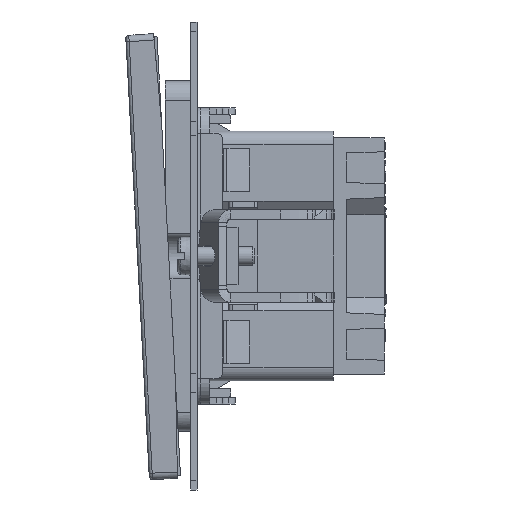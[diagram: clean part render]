
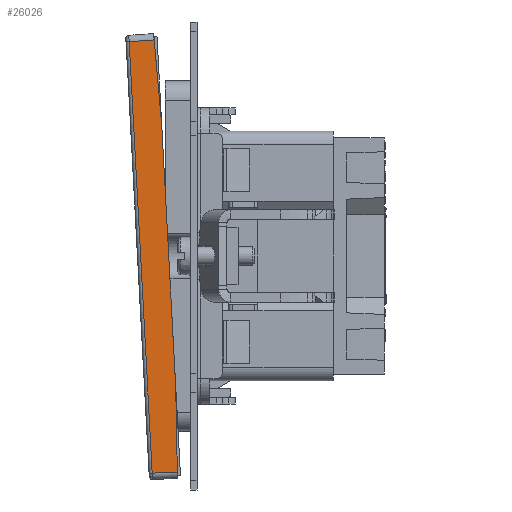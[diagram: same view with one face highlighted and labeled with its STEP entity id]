
A CAD part, left-side view. The second image highlights one B-rep face of the part: STEP entity #26026.
In plain terms, the highlighted planar face has unit normal (-1, 0.017, -0.001).
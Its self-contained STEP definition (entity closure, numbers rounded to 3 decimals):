
#290 = CARTESIAN_POINT ( 'NONE',  ( 23.088, 56.01, 48.668 ) ) ;
#636 = VERTEX_POINT ( 'NONE', #38427 ) ;
#2502 = ORIENTED_EDGE ( 'NONE', *, *, #26528, .T. ) ;
#2723 = VECTOR ( 'NONE', #38804, 1000. ) ;
#4575 = DIRECTION ( 'NONE',  ( 0., 0.053, 0.999 ) ) ;
#5030 = ORIENTED_EDGE ( 'NONE', *, *, #47167, .T. ) ;
#6022 = ORIENTED_EDGE ( 'NONE', *, *, #10515, .T. ) ;
#7202 = CARTESIAN_POINT ( 'NONE',  ( 23.088, 56.704, 61.977 ) ) ;
#8447 = CARTESIAN_POINT ( 'NONE',  ( 23.096, 53.556, -5.944 ) ) ;
#8536 = DIRECTION ( 'NONE',  ( 0.017, 0.998, -0.053 ) ) ;
#10254 = VERTEX_POINT ( 'NONE', #14268 ) ;
#10515 = EDGE_CURVE ( 'NONE', #35272, #35106, #13270, .T. ) ;
#12032 = EDGE_CURVE ( 'NONE', #35106, #56758, #28618, .T. ) ;
#12403 = ORIENTED_EDGE ( 'NONE', *, *, #41782, .T. ) ;
#13270 = LINE ( 'NONE', #13902, #17510 ) ;
#13522 = CARTESIAN_POINT ( 'NONE',  ( 23.165, 57.445, -7.076 ) ) ;
#13902 = CARTESIAN_POINT ( 'NONE',  ( 23.054, 54.832, 63.01 ) ) ;
#13978 = AXIS2_PLACEMENT_3D ( 'NONE', #27226, #28145, #8536 ) ;
#14268 = CARTESIAN_POINT ( 'NONE',  ( 23.165, 61.12, 61.664 ) ) ;
#14404 = EDGE_LOOP ( 'NONE', ( #26778, #12403, #2502, #5030, #6022, #30248 ) ) ;
#17126 = DIRECTION ( 'NONE',  ( -0.017, -0.999, 0.036 ) ) ;
#17510 = VECTOR ( 'NONE', #57898, 1000. ) ;
#24166 = DIRECTION ( 'NONE',  ( 0.001, 0.088, 0.996 ) ) ;
#26026 = ADVANCED_FACE ( 'NONE', ( #41745 ), #37010, .T. ) ;
#26305 = CARTESIAN_POINT ( 'NONE',  ( 23.109, 54.295, -5.97 ) ) ;
#26528 = EDGE_CURVE ( 'NONE', #10254, #49915, #36310, .T. ) ;
#26778 = ORIENTED_EDGE ( 'NONE', *, *, #32402, .T. ) ;
#27226 = CARTESIAN_POINT ( 'NONE',  ( 23.088, 56.775, 62.975 ) ) ;
#28145 = DIRECTION ( 'NONE',  ( -1., 0.017, -0.001 ) ) ;
#28618 = LINE ( 'NONE', #47932, #31731 ) ;
#30107 = CARTESIAN_POINT ( 'NONE',  ( 23.088, 53.803, 7.381 ) ) ;
#30248 = ORIENTED_EDGE ( 'NONE', *, *, #12032, .T. ) ;
#31731 = VECTOR ( 'NONE', #4575, 1000. ) ;
#32402 = EDGE_CURVE ( 'NONE', #56758, #636, #33333, .T. ) ;
#32440 = VECTOR ( 'NONE', #17126, 1000. ) ;
#33333 = LINE ( 'NONE', #57732, #59038 ) ;
#35106 = VERTEX_POINT ( 'NONE', #30107 ) ;
#35272 = VERTEX_POINT ( 'NONE', #8447 ) ;
#35374 = DIRECTION ( 'NONE',  ( 0.017, 0.997, -0.071 ) ) ;
#36310 = LINE ( 'NONE', #13522, #2723 ) ;
#37010 = PLANE ( 'NONE',  #13978 ) ;
#38427 = CARTESIAN_POINT ( 'NONE',  ( 23.096, 57.186, 61.943 ) ) ;
#38804 = DIRECTION ( 'NONE',  ( 0., -0.053, -0.999 ) ) ;
#40242 = VECTOR ( 'NONE', #35374, 1000. ) ;
#41745 = FACE_OUTER_BOUND ( 'NONE', #14404, .T. ) ;
#41782 = EDGE_CURVE ( 'NONE', #636, #10254, #44884, .T. ) ;
#44884 = LINE ( 'NONE', #7202, #40242 ) ;
#47167 = EDGE_CURVE ( 'NONE', #49915, #35272, #60193, .T. ) ;
#47932 = CARTESIAN_POINT ( 'NONE',  ( 23.088, 56.775, 62.975 ) ) ;
#49831 = CARTESIAN_POINT ( 'NONE',  ( 23.165, 57.498, -6.086 ) ) ;
#49915 = VERTEX_POINT ( 'NONE', #49831 ) ;
#56758 = VERTEX_POINT ( 'NONE', #290 ) ;
#57732 = CARTESIAN_POINT ( 'NONE',  ( 23.097, 57.273, 62.93 ) ) ;
#57898 = DIRECTION ( 'NONE',  ( -0.001, 0.018, 1. ) ) ;
#59038 = VECTOR ( 'NONE', #24166, 1000. ) ;
#60193 = LINE ( 'NONE', #26305, #32440 ) ;
